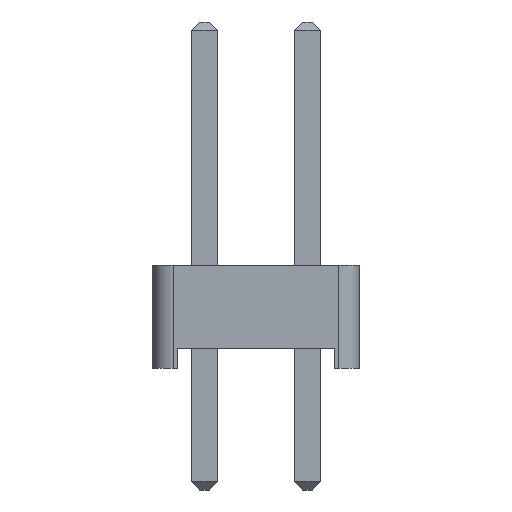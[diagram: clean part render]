
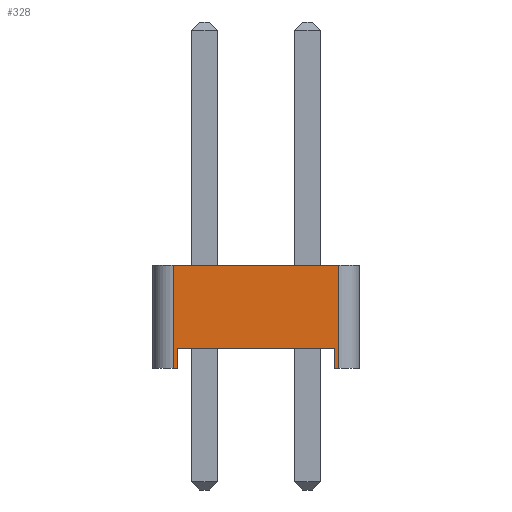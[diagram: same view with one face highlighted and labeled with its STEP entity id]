
A CAD part, left-side view. The second image highlights one B-rep face of the part: STEP entity #328.
In plain terms, the highlighted planar face has unit normal (-1, 0, 0).
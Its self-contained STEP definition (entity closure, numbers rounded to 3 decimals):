
#68 = VERTEX_POINT('',#69);
#69 = CARTESIAN_POINT('',(-1.27,2.04,0.));
#77 = PLANE('',#78);
#78 = AXIS2_PLACEMENT_3D('',#79,#80,#81);
#79 = CARTESIAN_POINT('',(0.,0.,0.));
#80 = DIRECTION('',(-0.,-0.,-1.));
#81 = DIRECTION('',(-1.,0.,0.));
#93 = CYLINDRICAL_SURFACE('',#94,0.5);
#94 = AXIS2_PLACEMENT_3D('',#95,#96,#97);
#95 = CARTESIAN_POINT('',(-0.77,2.04,0.));
#96 = DIRECTION('',(0.,0.,1.));
#97 = DIRECTION('',(0.,1.,0.));
#195 = VERTEX_POINT('',#196);
#196 = CARTESIAN_POINT('',(-1.27,1.94,0.));
#210 = PLANE('',#211);
#211 = AXIS2_PLACEMENT_3D('',#212,#213,#214);
#212 = CARTESIAN_POINT('',(1.27,1.94,0.));
#213 = DIRECTION('',(0.,-1.,0.));
#214 = DIRECTION('',(-1.,0.,0.));
#222 = EDGE_CURVE('',#195,#68,#223,.T.);
#223 = SURFACE_CURVE('',#224,(#228,#235),.PCURVE_S1.);
#224 = LINE('',#225,#226);
#225 = CARTESIAN_POINT('',(-1.27,-2.54,0.));
#226 = VECTOR('',#227,1.);
#227 = DIRECTION('',(0.,1.,0.));
#228 = PCURVE('',#77,#229);
#229 = DEFINITIONAL_REPRESENTATION('',(#230),#234);
#230 = LINE('',#231,#232);
#231 = CARTESIAN_POINT('',(1.27,-2.54));
#232 = VECTOR('',#233,1.);
#233 = DIRECTION('',(0.,1.));
#234 = ( GEOMETRIC_REPRESENTATION_CONTEXT(2) 
PARAMETRIC_REPRESENTATION_CONTEXT() REPRESENTATION_CONTEXT('2D SPACE',''
  ) );
#235 = PCURVE('',#236,#241);
#236 = PLANE('',#237);
#237 = AXIS2_PLACEMENT_3D('',#238,#239,#240);
#238 = CARTESIAN_POINT('',(-1.27,-2.54,0.));
#239 = DIRECTION('',(-1.,0.,0.));
#240 = DIRECTION('',(0.,1.,0.));
#241 = DEFINITIONAL_REPRESENTATION('',(#242),#246);
#242 = LINE('',#243,#244);
#243 = CARTESIAN_POINT('',(0.,0.));
#244 = VECTOR('',#245,1.);
#245 = DIRECTION('',(1.,0.));
#246 = ( GEOMETRIC_REPRESENTATION_CONTEXT(2) 
PARAMETRIC_REPRESENTATION_CONTEXT() REPRESENTATION_CONTEXT('2D SPACE',''
  ) );
#252 = EDGE_CURVE('',#68,#253,#255,.T.);
#253 = VERTEX_POINT('',#254);
#254 = CARTESIAN_POINT('',(-1.27,2.04,2.54));
#255 = SURFACE_CURVE('',#256,(#260,#267),.PCURVE_S1.);
#256 = LINE('',#257,#258);
#257 = CARTESIAN_POINT('',(-1.27,2.04,0.));
#258 = VECTOR('',#259,1.);
#259 = DIRECTION('',(0.,0.,1.));
#260 = PCURVE('',#93,#261);
#261 = DEFINITIONAL_REPRESENTATION('',(#262),#266);
#262 = LINE('',#263,#264);
#263 = CARTESIAN_POINT('',(1.571,0.));
#264 = VECTOR('',#265,1.);
#265 = DIRECTION('',(0.,1.));
#266 = ( GEOMETRIC_REPRESENTATION_CONTEXT(2) 
PARAMETRIC_REPRESENTATION_CONTEXT() REPRESENTATION_CONTEXT('2D SPACE',''
  ) );
#267 = PCURVE('',#236,#268);
#268 = DEFINITIONAL_REPRESENTATION('',(#269),#273);
#269 = LINE('',#270,#271);
#270 = CARTESIAN_POINT('',(4.58,0.));
#271 = VECTOR('',#272,1.);
#272 = DIRECTION('',(0.,-1.));
#273 = ( GEOMETRIC_REPRESENTATION_CONTEXT(2) 
PARAMETRIC_REPRESENTATION_CONTEXT() REPRESENTATION_CONTEXT('2D SPACE',''
  ) );
#292 = PLANE('',#293);
#293 = AXIS2_PLACEMENT_3D('',#294,#295,#296);
#294 = CARTESIAN_POINT('',(0.,0.,2.54));
#295 = DIRECTION('',(-0.,-0.,-1.));
#296 = DIRECTION('',(-1.,0.,0.));
#328 = ADVANCED_FACE('',(#329),#236,.T.);
#329 = FACE_BOUND('',#330,.T.);
#330 = EDGE_LOOP('',(#331,#361,#389,#410,#411,#412,#435,#463));
#331 = ORIENTED_EDGE('',*,*,#332,.F.);
#332 = EDGE_CURVE('',#333,#335,#337,.T.);
#333 = VERTEX_POINT('',#334);
#334 = CARTESIAN_POINT('',(-1.27,-2.04,0.));
#335 = VERTEX_POINT('',#336);
#336 = CARTESIAN_POINT('',(-1.27,-1.94,0.));
#337 = SURFACE_CURVE('',#338,(#342,#349),.PCURVE_S1.);
#338 = LINE('',#339,#340);
#339 = CARTESIAN_POINT('',(-1.27,-2.54,0.));
#340 = VECTOR('',#341,1.);
#341 = DIRECTION('',(0.,1.,0.));
#342 = PCURVE('',#236,#343);
#343 = DEFINITIONAL_REPRESENTATION('',(#344),#348);
#344 = LINE('',#345,#346);
#345 = CARTESIAN_POINT('',(0.,0.));
#346 = VECTOR('',#347,1.);
#347 = DIRECTION('',(1.,0.));
#348 = ( GEOMETRIC_REPRESENTATION_CONTEXT(2) 
PARAMETRIC_REPRESENTATION_CONTEXT() REPRESENTATION_CONTEXT('2D SPACE',''
  ) );
#349 = PCURVE('',#350,#355);
#350 = PLANE('',#351);
#351 = AXIS2_PLACEMENT_3D('',#352,#353,#354);
#352 = CARTESIAN_POINT('',(0.,0.,0.));
#353 = DIRECTION('',(-0.,-0.,-1.));
#354 = DIRECTION('',(-1.,0.,0.));
#355 = DEFINITIONAL_REPRESENTATION('',(#356),#360);
#356 = LINE('',#357,#358);
#357 = CARTESIAN_POINT('',(1.27,-2.54));
#358 = VECTOR('',#359,1.);
#359 = DIRECTION('',(0.,1.));
#360 = ( GEOMETRIC_REPRESENTATION_CONTEXT(2) 
PARAMETRIC_REPRESENTATION_CONTEXT() REPRESENTATION_CONTEXT('2D SPACE',''
  ) );
#361 = ORIENTED_EDGE('',*,*,#362,.T.);
#362 = EDGE_CURVE('',#333,#363,#365,.T.);
#363 = VERTEX_POINT('',#364);
#364 = CARTESIAN_POINT('',(-1.27,-2.04,2.54));
#365 = SURFACE_CURVE('',#366,(#370,#377),.PCURVE_S1.);
#366 = LINE('',#367,#368);
#367 = CARTESIAN_POINT('',(-1.27,-2.04,0.));
#368 = VECTOR('',#369,1.);
#369 = DIRECTION('',(0.,0.,1.));
#370 = PCURVE('',#236,#371);
#371 = DEFINITIONAL_REPRESENTATION('',(#372),#376);
#372 = LINE('',#373,#374);
#373 = CARTESIAN_POINT('',(0.5,0.));
#374 = VECTOR('',#375,1.);
#375 = DIRECTION('',(0.,-1.));
#376 = ( GEOMETRIC_REPRESENTATION_CONTEXT(2) 
PARAMETRIC_REPRESENTATION_CONTEXT() REPRESENTATION_CONTEXT('2D SPACE',''
  ) );
#377 = PCURVE('',#378,#383);
#378 = CYLINDRICAL_SURFACE('',#379,0.5);
#379 = AXIS2_PLACEMENT_3D('',#380,#381,#382);
#380 = CARTESIAN_POINT('',(-0.77,-2.04,0.));
#381 = DIRECTION('',(0.,0.,1.));
#382 = DIRECTION('',(0.,-1.,0.));
#383 = DEFINITIONAL_REPRESENTATION('',(#384),#388);
#384 = LINE('',#385,#386);
#385 = CARTESIAN_POINT('',(-1.571,0.));
#386 = VECTOR('',#387,1.);
#387 = DIRECTION('',(-0.,1.));
#388 = ( GEOMETRIC_REPRESENTATION_CONTEXT(2) 
PARAMETRIC_REPRESENTATION_CONTEXT() REPRESENTATION_CONTEXT('2D SPACE',''
  ) );
#389 = ORIENTED_EDGE('',*,*,#390,.T.);
#390 = EDGE_CURVE('',#363,#253,#391,.T.);
#391 = SURFACE_CURVE('',#392,(#396,#403),.PCURVE_S1.);
#392 = LINE('',#393,#394);
#393 = CARTESIAN_POINT('',(-1.27,-2.54,2.54));
#394 = VECTOR('',#395,1.);
#395 = DIRECTION('',(0.,1.,0.));
#396 = PCURVE('',#236,#397);
#397 = DEFINITIONAL_REPRESENTATION('',(#398),#402);
#398 = LINE('',#399,#400);
#399 = CARTESIAN_POINT('',(0.,-2.54));
#400 = VECTOR('',#401,1.);
#401 = DIRECTION('',(1.,0.));
#402 = ( GEOMETRIC_REPRESENTATION_CONTEXT(2) 
PARAMETRIC_REPRESENTATION_CONTEXT() REPRESENTATION_CONTEXT('2D SPACE',''
  ) );
#403 = PCURVE('',#292,#404);
#404 = DEFINITIONAL_REPRESENTATION('',(#405),#409);
#405 = LINE('',#406,#407);
#406 = CARTESIAN_POINT('',(1.27,-2.54));
#407 = VECTOR('',#408,1.);
#408 = DIRECTION('',(0.,1.));
#409 = ( GEOMETRIC_REPRESENTATION_CONTEXT(2) 
PARAMETRIC_REPRESENTATION_CONTEXT() REPRESENTATION_CONTEXT('2D SPACE',''
  ) );
#410 = ORIENTED_EDGE('',*,*,#252,.F.);
#411 = ORIENTED_EDGE('',*,*,#222,.F.);
#412 = ORIENTED_EDGE('',*,*,#413,.T.);
#413 = EDGE_CURVE('',#195,#414,#416,.T.);
#414 = VERTEX_POINT('',#415);
#415 = CARTESIAN_POINT('',(-1.27,1.94,0.5));
#416 = SURFACE_CURVE('',#417,(#421,#428),.PCURVE_S1.);
#417 = LINE('',#418,#419);
#418 = CARTESIAN_POINT('',(-1.27,1.94,0.));
#419 = VECTOR('',#420,1.);
#420 = DIRECTION('',(0.,0.,1.));
#421 = PCURVE('',#236,#422);
#422 = DEFINITIONAL_REPRESENTATION('',(#423),#427);
#423 = LINE('',#424,#425);
#424 = CARTESIAN_POINT('',(4.48,0.));
#425 = VECTOR('',#426,1.);
#426 = DIRECTION('',(0.,-1.));
#427 = ( GEOMETRIC_REPRESENTATION_CONTEXT(2) 
PARAMETRIC_REPRESENTATION_CONTEXT() REPRESENTATION_CONTEXT('2D SPACE',''
  ) );
#428 = PCURVE('',#210,#429);
#429 = DEFINITIONAL_REPRESENTATION('',(#430),#434);
#430 = LINE('',#431,#432);
#431 = CARTESIAN_POINT('',(2.54,0.));
#432 = VECTOR('',#433,1.);
#433 = DIRECTION('',(0.,-1.));
#434 = ( GEOMETRIC_REPRESENTATION_CONTEXT(2) 
PARAMETRIC_REPRESENTATION_CONTEXT() REPRESENTATION_CONTEXT('2D SPACE',''
  ) );
#435 = ORIENTED_EDGE('',*,*,#436,.T.);
#436 = EDGE_CURVE('',#414,#437,#439,.T.);
#437 = VERTEX_POINT('',#438);
#438 = CARTESIAN_POINT('',(-1.27,-1.94,0.5));
#439 = SURFACE_CURVE('',#440,(#444,#451),.PCURVE_S1.);
#440 = LINE('',#441,#442);
#441 = CARTESIAN_POINT('',(-1.27,1.94,0.5));
#442 = VECTOR('',#443,1.);
#443 = DIRECTION('',(0.,-1.,0.));
#444 = PCURVE('',#236,#445);
#445 = DEFINITIONAL_REPRESENTATION('',(#446),#450);
#446 = LINE('',#447,#448);
#447 = CARTESIAN_POINT('',(4.48,-0.5));
#448 = VECTOR('',#449,1.);
#449 = DIRECTION('',(-1.,0.));
#450 = ( GEOMETRIC_REPRESENTATION_CONTEXT(2) 
PARAMETRIC_REPRESENTATION_CONTEXT() REPRESENTATION_CONTEXT('2D SPACE',''
  ) );
#451 = PCURVE('',#452,#457);
#452 = PLANE('',#453);
#453 = AXIS2_PLACEMENT_3D('',#454,#455,#456);
#454 = CARTESIAN_POINT('',(0.,0.,0.5));
#455 = DIRECTION('',(0.,0.,1.));
#456 = DIRECTION('',(1.,0.,0.));
#457 = DEFINITIONAL_REPRESENTATION('',(#458),#462);
#458 = LINE('',#459,#460);
#459 = CARTESIAN_POINT('',(-1.27,1.94));
#460 = VECTOR('',#461,1.);
#461 = DIRECTION('',(0.,-1.));
#462 = ( GEOMETRIC_REPRESENTATION_CONTEXT(2) 
PARAMETRIC_REPRESENTATION_CONTEXT() REPRESENTATION_CONTEXT('2D SPACE',''
  ) );
#463 = ORIENTED_EDGE('',*,*,#464,.F.);
#464 = EDGE_CURVE('',#335,#437,#465,.T.);
#465 = SURFACE_CURVE('',#466,(#470,#477),.PCURVE_S1.);
#466 = LINE('',#467,#468);
#467 = CARTESIAN_POINT('',(-1.27,-1.94,0.));
#468 = VECTOR('',#469,1.);
#469 = DIRECTION('',(0.,0.,1.));
#470 = PCURVE('',#236,#471);
#471 = DEFINITIONAL_REPRESENTATION('',(#472),#476);
#472 = LINE('',#473,#474);
#473 = CARTESIAN_POINT('',(0.6,0.));
#474 = VECTOR('',#475,1.);
#475 = DIRECTION('',(0.,-1.));
#476 = ( GEOMETRIC_REPRESENTATION_CONTEXT(2) 
PARAMETRIC_REPRESENTATION_CONTEXT() REPRESENTATION_CONTEXT('2D SPACE',''
  ) );
#477 = PCURVE('',#478,#483);
#478 = PLANE('',#479);
#479 = AXIS2_PLACEMENT_3D('',#480,#481,#482);
#480 = CARTESIAN_POINT('',(-1.27,-1.94,0.));
#481 = DIRECTION('',(0.,1.,0.));
#482 = DIRECTION('',(1.,0.,0.));
#483 = DEFINITIONAL_REPRESENTATION('',(#484),#488);
#484 = LINE('',#485,#486);
#485 = CARTESIAN_POINT('',(0.,0.));
#486 = VECTOR('',#487,1.);
#487 = DIRECTION('',(0.,-1.));
#488 = ( GEOMETRIC_REPRESENTATION_CONTEXT(2) 
PARAMETRIC_REPRESENTATION_CONTEXT() REPRESENTATION_CONTEXT('2D SPACE',''
  ) );
